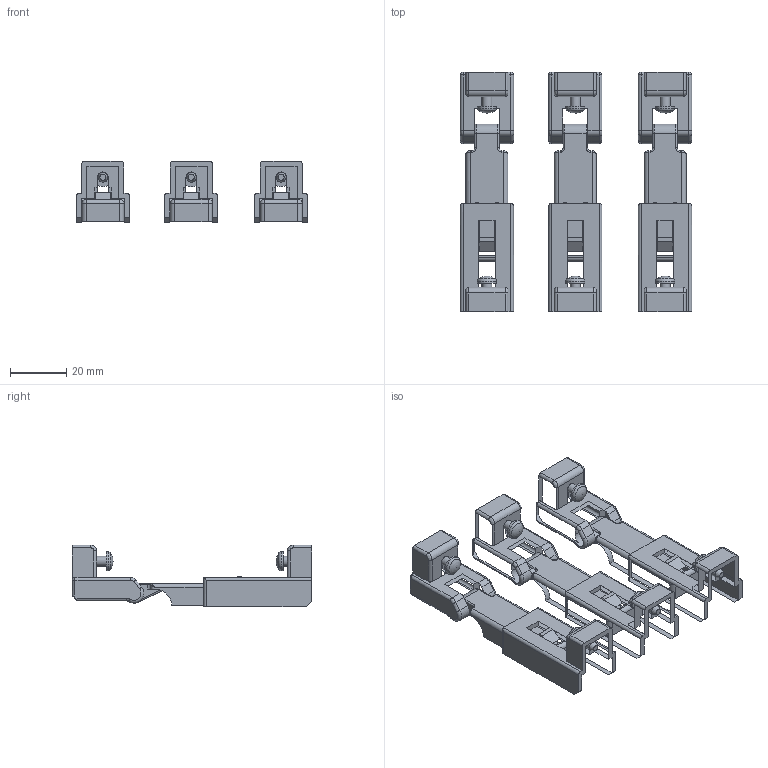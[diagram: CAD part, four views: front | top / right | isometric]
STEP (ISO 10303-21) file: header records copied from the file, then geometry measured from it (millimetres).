
FILE_DESCRIPTION(/* description */ (''),/* implementation_level */ '2;1');
FILE_NAME(/* name */ '4003904.stp',/* time_stamp */ '2016-09-22T15:38:40+02:00',/* author */ (''),/* organization */ (''),/* preprocessor_version */ 'ST-DEVELOPER v16',/* originating_system */ 'SIEMENS PLM Software NX 11.0',/* authorisation */ '');
FILE_SCHEMA (('AUTOMOTIVE_DESIGN { 1 0 10303 214 3 1 1 1 }'));
Length unit declared in the file: millimetre
Products named in the file (1): 4003904_LINKEDEXT_jt
Bounding box: 82.5 x 85.4 x 22 mm (x, y, z)
Surface area: 16161.8 mm2 (no closed solid volume)
Topology: 0 solids, 21 shells, 397 faces, 1357 edges, 890 vertices
Faces by surface type: plane 159, cylinder 154, torus 42, sphere 18, bspline 18, cone 6
Full cylindrical faces by diameter (mm): 3.3 x4, 3.5 x6, 6.8 x6
Entity records: 16784 total; most frequent: CARTESIAN_POINT 2885, DIRECTION 2494, ORIENTED_EDGE 1968, EDGE_CURVE 1283, VERTEX_POINT 868, AXIS2_PLACEMENT_3D 837, LINE 820, VECTOR 820
